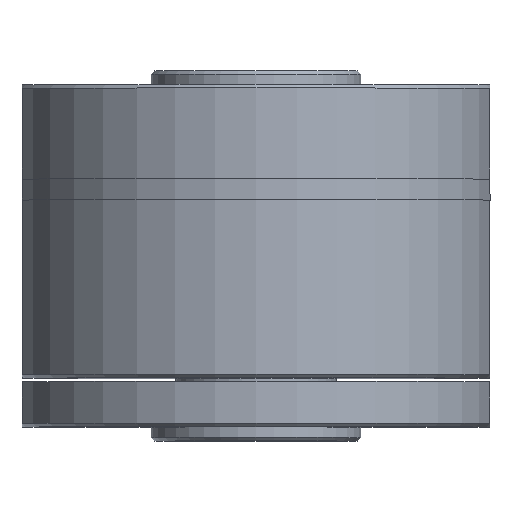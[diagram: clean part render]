
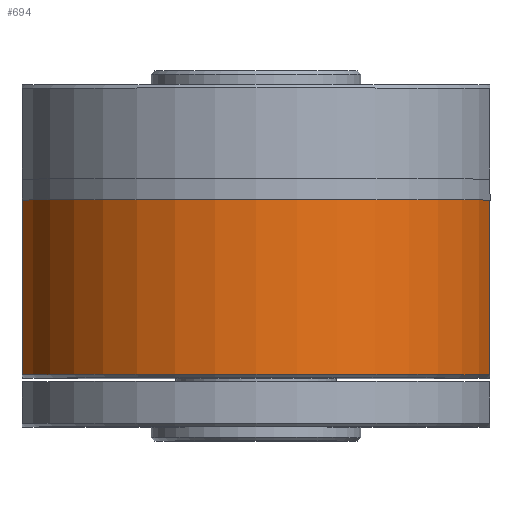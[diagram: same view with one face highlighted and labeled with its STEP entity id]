
A CAD part, top view. The second image highlights one B-rep face of the part: STEP entity #694.
In plain terms, the highlighted cylindrical face has radius 34 mm (diameter 68 mm), a partial arc.
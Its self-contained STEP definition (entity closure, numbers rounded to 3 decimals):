
#179 = CARTESIAN_POINT ( 'NONE',  ( 33.5, -18.5, 5.809 ) ) ;
#326 = DIRECTION ( 'NONE',  ( 1., 0., 0. ) ) ;
#331 = EDGE_CURVE ( 'NONE', #1269, #4011, #1247, .T. ) ;
#354 = FACE_OUTER_BOUND ( 'NONE', #2259, .T. ) ;
#461 = ORIENTED_EDGE ( 'NONE', *, *, #331, .T. ) ;
#491 = EDGE_CURVE ( 'NONE', #5266, #3027, #2187, .T. ) ;
#632 = AXIS2_PLACEMENT_3D ( 'NONE', #753, #4592, #326 ) ;
#694 = ADVANCED_FACE ( 'NONE', ( #354 ), #4188, .T. ) ;
#714 = ORIENTED_EDGE ( 'NONE', *, *, #4759, .T. ) ;
#753 = CARTESIAN_POINT ( 'NONE',  ( 0., -1000., 0. ) ) ;
#758 = DIRECTION ( 'NONE',  ( 0., 1., 0. ) ) ;
#934 = DIRECTION ( 'NONE',  ( 0., -1., 0. ) ) ;
#1052 = CIRCLE ( 'NONE', #2865, 34. ) ;
#1115 = CARTESIAN_POINT ( 'NONE',  ( 0., -18.5, 0. ) ) ;
#1247 = LINE ( 'NONE', #4646, #1947 ) ;
#1269 = VERTEX_POINT ( 'NONE', #2621 ) ;
#1947 = VECTOR ( 'NONE', #758, 1000. ) ;
#2187 = LINE ( 'NONE', #3090, #5430 ) ;
#2259 = EDGE_LOOP ( 'NONE', ( #2749, #714, #461, #4046 ) ) ;
#2301 = DIRECTION ( 'NONE',  ( -1., 0., 0. ) ) ;
#2613 = EDGE_CURVE ( 'NONE', #4011, #5266, #1052, .T. ) ;
#2621 = CARTESIAN_POINT ( 'NONE',  ( 33.5, -43.5, 5.809 ) ) ;
#2699 = CARTESIAN_POINT ( 'NONE',  ( -33.5, -18.5, 5.809 ) ) ;
#2749 = ORIENTED_EDGE ( 'NONE', *, *, #491, .T. ) ;
#2865 = AXIS2_PLACEMENT_3D ( 'NONE', #1115, #4466, #5397 ) ;
#3027 = VERTEX_POINT ( 'NONE', #4951 ) ;
#3090 = CARTESIAN_POINT ( 'NONE',  ( -33.5, -1000., 5.809 ) ) ;
#3202 = CARTESIAN_POINT ( 'NONE',  ( 0., -43.5, 0. ) ) ;
#3230 = DIRECTION ( 'NONE',  ( 0., 1., 0. ) ) ;
#4011 = VERTEX_POINT ( 'NONE', #179 ) ;
#4046 = ORIENTED_EDGE ( 'NONE', *, *, #2613, .T. ) ;
#4188 = CYLINDRICAL_SURFACE ( 'NONE', #632, 34. ) ;
#4466 = DIRECTION ( 'NONE',  ( 0., -1., 0. ) ) ;
#4516 = AXIS2_PLACEMENT_3D ( 'NONE', #3202, #3230, #2301 ) ;
#4592 = DIRECTION ( 'NONE',  ( 0., -1., 0. ) ) ;
#4646 = CARTESIAN_POINT ( 'NONE',  ( 33.5, -1000., 5.809 ) ) ;
#4759 = EDGE_CURVE ( 'NONE', #3027, #1269, #5503, .T. ) ;
#4951 = CARTESIAN_POINT ( 'NONE',  ( -33.5, -43.5, 5.809 ) ) ;
#5266 = VERTEX_POINT ( 'NONE', #2699 ) ;
#5397 = DIRECTION ( 'NONE',  ( 1., 0., 0. ) ) ;
#5430 = VECTOR ( 'NONE', #934, 1000. ) ;
#5503 = CIRCLE ( 'NONE', #4516, 34. ) ;
